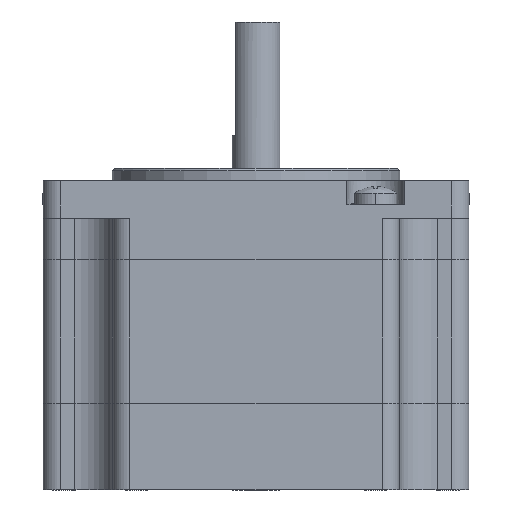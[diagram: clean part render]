
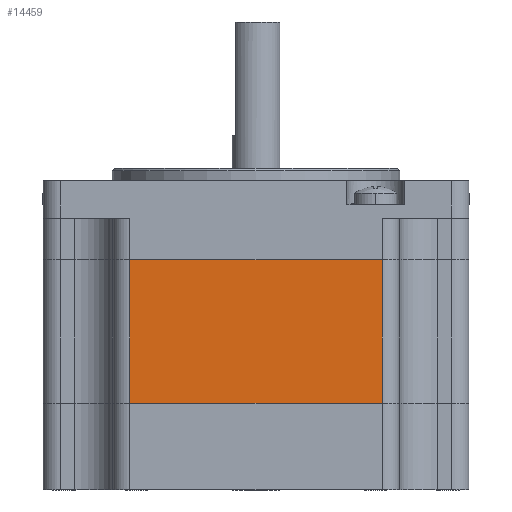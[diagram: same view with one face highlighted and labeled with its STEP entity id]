
A CAD part, front view. The second image highlights one B-rep face of the part: STEP entity #14459.
In plain terms, the highlighted planar face has unit normal (0, -1, 0).
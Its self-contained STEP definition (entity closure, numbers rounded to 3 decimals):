
#9029 = VERTEX_POINT ( 'NONE', #56603 ) ;
#9510 = VERTEX_POINT ( 'NONE', #36727 ) ;
#10390 = ORIENTED_EDGE ( 'NONE', *, *, #61558, .F. ) ;
#10391 = ORIENTED_EDGE ( 'NONE', *, *, #61497, .F. ) ;
#10392 = ORIENTED_EDGE ( 'NONE', *, *, #61511, .F. ) ;
#10393 = ORIENTED_EDGE ( 'NONE', *, *, #61657, .T. ) ;
#14459 = ADVANCED_FACE ( 'NONE', ( #61662 ), #61269, .T. ) ;
#19027 = AXIS2_PLACEMENT_3D ( 'NONE', #61270, #61271, #61272 ) ;
#22542 = EDGE_LOOP ( 'NONE', ( #10390, #10392, #10391, #10393 ) ) ;
#36727 = CARTESIAN_POINT ( 'NONE',  ( 16.7, -28.2, 53. ) ) ;
#53669 = LINE ( 'NONE', #55351, #54122 ) ;
#53680 = LINE ( 'NONE', #55596, #54133 ) ;
#53736 = LINE ( 'NONE', #55807, #54199 ) ;
#54122 = VECTOR ( 'NONE', #55352, 1000. ) ;
#54133 = VECTOR ( 'NONE', #55597, 1000. ) ;
#54199 = VECTOR ( 'NONE', #55808, 1000. ) ;
#54323 = VECTOR ( 'NONE', #56145, 1000. ) ;
#54816 = CARTESIAN_POINT ( 'NONE',  ( 16.7, -28.2, 34. ) ) ;
#54818 = CARTESIAN_POINT ( 'NONE',  ( -16.7, -28.2, 34. ) ) ;
#55351 = CARTESIAN_POINT ( 'NONE',  ( -16.7, -28.2, 122.091 ) ) ;
#55352 = DIRECTION ( 'NONE',  ( 0., 0., 1. ) ) ;
#55596 = CARTESIAN_POINT ( 'NONE',  ( 0., -28.2, 53. ) ) ;
#55597 = DIRECTION ( 'NONE',  ( 1., 0., 0. ) ) ;
#55807 = CARTESIAN_POINT ( 'NONE',  ( 16.7, -28.2, 122.091 ) ) ;
#55808 = DIRECTION ( 'NONE',  ( 0., 0., -1. ) ) ;
#56144 = CARTESIAN_POINT ( 'NONE',  ( -19., -28.2, 34. ) ) ;
#56145 = DIRECTION ( 'NONE',  ( 1., 0., 0. ) ) ;
#56603 = CARTESIAN_POINT ( 'NONE',  ( -16.7, -28.2, 53. ) ) ;
#57071 = LINE ( 'NONE', #56144, #54323 ) ;
#58693 = VERTEX_POINT ( 'NONE', #54816 ) ;
#58695 = VERTEX_POINT ( 'NONE', #54818 ) ;
#61269 = PLANE ( 'NONE',  #19027 ) ;
#61270 = CARTESIAN_POINT ( 'NONE',  ( -19., -28.2, 0. ) ) ;
#61271 = DIRECTION ( 'NONE',  ( 0., -1., 0. ) ) ;
#61272 = DIRECTION ( 'NONE',  ( 0., 0., -1. ) ) ;
#61497 = EDGE_CURVE ( 'NONE', #58695, #9029, #53669, .T. ) ;
#61511 = EDGE_CURVE ( 'NONE', #9029, #9510, #53680, .T. ) ;
#61558 = EDGE_CURVE ( 'NONE', #9510, #58693, #53736, .T. ) ;
#61657 = EDGE_CURVE ( 'NONE', #58695, #58693, #57071, .T. ) ;
#61662 = FACE_OUTER_BOUND ( 'NONE', #22542, .T. ) ;
